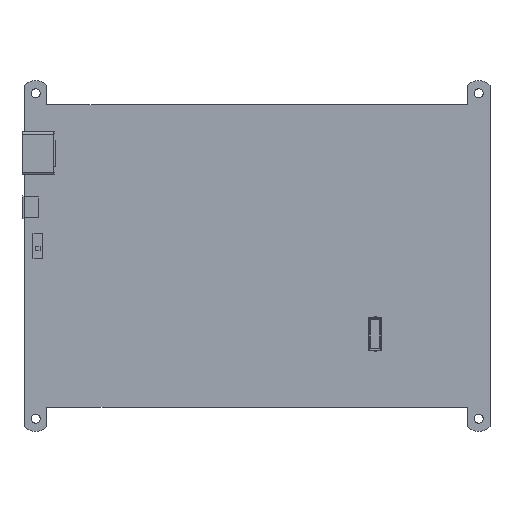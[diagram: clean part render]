
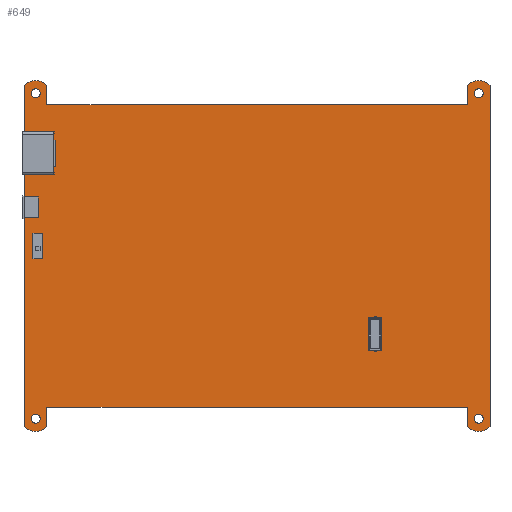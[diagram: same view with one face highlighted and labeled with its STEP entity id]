
A CAD part, top view. The second image highlights one B-rep face of the part: STEP entity #649.
In plain terms, the highlighted planar face has unit normal (0, 0, 1).
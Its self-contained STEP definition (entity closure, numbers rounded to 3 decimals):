
#70=DIRECTION('',(0.,1.,0.));
#71=VECTOR('',#70,120.957);
#72=CARTESIAN_POINT('',(1364.564,934.523,0.));
#73=LINE('',#72,#71);
#77=CARTESIAN_POINT('',(1360.564,938.523,0.));
#78=DIRECTION('',(0.,0.,1.));
#79=DIRECTION('',(-0.707,-0.707,0.));
#80=AXIS2_PLACEMENT_3D('',#77,#78,#79);
#85=DIRECTION('',(0.001,-1.,0.));
#86=VECTOR('',#85,6.954);
#87=CARTESIAN_POINT('',(1356.56,941.476,0.));
#88=LINE('',#87,#86);
#92=DIRECTION('',(1.,0.,0.));
#93=VECTOR('',#92,148.896);
#94=CARTESIAN_POINT('',(1207.664,941.472,0.));
#95=LINE('',#94,#93);
#99=DIRECTION('',(0.,1.,0.));
#100=VECTOR('',#99,6.949);
#101=CARTESIAN_POINT('',(1207.664,934.523,0.));
#102=LINE('',#101,#100);
#106=CARTESIAN_POINT('',(1203.664,938.523,0.));
#107=DIRECTION('',(0.,0.,1.));
#108=DIRECTION('',(-0.707,-0.707,0.));
#109=AXIS2_PLACEMENT_3D('',#106,#107,#108);
#114=DIRECTION('',(0.,-1.,0.));
#115=VECTOR('',#114,120.957);
#116=CARTESIAN_POINT('',(1199.664,1055.48,0.));
#117=LINE('',#116,#115);
#121=CARTESIAN_POINT('',(1203.664,1051.48,0.));
#122=DIRECTION('',(0.,0.,1.));
#123=DIRECTION('',(0.707,0.707,0.));
#124=AXIS2_PLACEMENT_3D('',#121,#122,#123);
#129=DIRECTION('',(-0.001,1.,0.));
#130=VECTOR('',#129,6.985);
#131=CARTESIAN_POINT('',(1207.668,1048.495,0.));
#132=LINE('',#131,#130);
#136=DIRECTION('',(-1.,0.,0.));
#137=VECTOR('',#136,148.896);
#138=CARTESIAN_POINT('',(1356.564,1048.495,0.));
#139=LINE('',#138,#137);
#143=DIRECTION('',(0.,-1.,0.));
#144=VECTOR('',#143,6.985);
#145=CARTESIAN_POINT('',(1356.564,1055.48,0.));
#146=LINE('',#145,#144);
#150=CARTESIAN_POINT('',(1360.564,1051.48,0.));
#151=DIRECTION('',(0.,0.,1.));
#152=DIRECTION('',(0.707,0.707,0.));
#153=AXIS2_PLACEMENT_3D('',#150,#151,#152);
#158=CARTESIAN_POINT('',(1360.564,937.401,0.));
#159=DIRECTION('',(0.,0.,1.));
#160=DIRECTION('',(1.,0.,0.));
#161=AXIS2_PLACEMENT_3D('',#158,#159,#160);
#166=CARTESIAN_POINT('',(1360.564,937.401,0.));
#167=DIRECTION('',(0.,0.,1.));
#168=DIRECTION('',(-1.,0.,0.));
#169=AXIS2_PLACEMENT_3D('',#166,#167,#168);
#174=CARTESIAN_POINT('',(1360.564,1052.601,0.));
#175=DIRECTION('',(0.,0.,1.));
#176=DIRECTION('',(1.,0.,0.));
#177=AXIS2_PLACEMENT_3D('',#174,#175,#176);
#182=CARTESIAN_POINT('',(1360.564,1052.601,0.));
#183=DIRECTION('',(0.,0.,1.));
#184=DIRECTION('',(-1.,0.,0.));
#185=AXIS2_PLACEMENT_3D('',#182,#183,#184);
#190=CARTESIAN_POINT('',(1203.664,937.401,0.));
#191=DIRECTION('',(0.,0.,1.));
#192=DIRECTION('',(1.,0.,0.));
#193=AXIS2_PLACEMENT_3D('',#190,#191,#192);
#198=CARTESIAN_POINT('',(1203.664,937.401,0.));
#199=DIRECTION('',(0.,0.,1.));
#200=DIRECTION('',(-1.,0.,0.));
#201=AXIS2_PLACEMENT_3D('',#198,#199,#200);
#206=CARTESIAN_POINT('',(1203.664,1052.601,0.));
#207=DIRECTION('',(0.,0.,1.));
#208=DIRECTION('',(1.,0.,0.));
#209=AXIS2_PLACEMENT_3D('',#206,#207,#208);
#214=CARTESIAN_POINT('',(1203.664,1052.601,0.));
#215=DIRECTION('',(0.,0.,1.));
#216=DIRECTION('',(-1.,0.,0.));
#217=AXIS2_PLACEMENT_3D('',#214,#215,#216);
#514=CARTESIAN_POINT('',(1364.564,934.523,0.));
#515=CARTESIAN_POINT('',(1364.564,1055.48,0.));
#516=VERTEX_POINT('',#514);
#517=VERTEX_POINT('',#515);
#518=CARTESIAN_POINT('',(1356.564,1055.48,0.));
#519=VERTEX_POINT('',#518);
#520=CARTESIAN_POINT('',(1356.564,1048.495,0.));
#521=VERTEX_POINT('',#520);
#522=CARTESIAN_POINT('',(1207.668,1048.495,0.));
#523=VERTEX_POINT('',#522);
#524=CARTESIAN_POINT('',(1207.664,1055.48,0.));
#525=VERTEX_POINT('',#524);
#526=CARTESIAN_POINT('',(1199.664,1055.48,0.));
#527=VERTEX_POINT('',#526);
#528=CARTESIAN_POINT('',(1199.664,934.523,0.));
#529=VERTEX_POINT('',#528);
#530=CARTESIAN_POINT('',(1207.664,934.523,0.));
#531=VERTEX_POINT('',#530);
#532=CARTESIAN_POINT('',(1207.664,941.472,0.));
#533=VERTEX_POINT('',#532);
#534=CARTESIAN_POINT('',(1356.56,941.476,0.));
#535=VERTEX_POINT('',#534);
#536=CARTESIAN_POINT('',(1356.564,934.523,0.));
#537=VERTEX_POINT('',#536);
#562=CARTESIAN_POINT('',(1362.164,937.401,0.));
#563=CARTESIAN_POINT('',(1358.964,937.401,0.));
#564=VERTEX_POINT('',#562);
#565=VERTEX_POINT('',#563);
#566=CARTESIAN_POINT('',(1362.164,1052.601,0.));
#567=CARTESIAN_POINT('',(1358.964,1052.601,0.));
#568=VERTEX_POINT('',#566);
#569=VERTEX_POINT('',#567);
#570=CARTESIAN_POINT('',(1205.264,937.401,0.));
#571=CARTESIAN_POINT('',(1202.064,937.401,0.));
#572=VERTEX_POINT('',#570);
#573=VERTEX_POINT('',#571);
#574=CARTESIAN_POINT('',(1205.264,1052.601,0.));
#575=CARTESIAN_POINT('',(1202.064,1052.601,0.));
#576=VERTEX_POINT('',#574);
#577=VERTEX_POINT('',#575);
#594=CARTESIAN_POINT('',(0.,0.,0.));
#595=DIRECTION('',(0.,0.,1.));
#596=DIRECTION('',(1.,0.,0.));
#597=AXIS2_PLACEMENT_3D('',#594,#595,#596);
#598=PLANE('',#597);
#600=ORIENTED_EDGE('',*,*,#599,.F.);
#602=ORIENTED_EDGE('',*,*,#601,.F.);
#604=ORIENTED_EDGE('',*,*,#603,.F.);
#606=ORIENTED_EDGE('',*,*,#605,.F.);
#608=ORIENTED_EDGE('',*,*,#607,.F.);
#610=ORIENTED_EDGE('',*,*,#609,.F.);
#612=ORIENTED_EDGE('',*,*,#611,.F.);
#614=ORIENTED_EDGE('',*,*,#613,.F.);
#616=ORIENTED_EDGE('',*,*,#615,.F.);
#618=ORIENTED_EDGE('',*,*,#617,.F.);
#620=ORIENTED_EDGE('',*,*,#619,.F.);
#622=ORIENTED_EDGE('',*,*,#621,.F.);
#623=EDGE_LOOP('',(#600,#602,#604,#606,#608,#610,#612,#614,#616,#618,#620,
#622));
#624=FACE_OUTER_BOUND('',#623,.F.);
#626=ORIENTED_EDGE('',*,*,#625,.T.);
#628=ORIENTED_EDGE('',*,*,#627,.T.);
#629=EDGE_LOOP('',(#626,#628));
#630=FACE_BOUND('',#629,.F.);
#632=ORIENTED_EDGE('',*,*,#631,.T.);
#634=ORIENTED_EDGE('',*,*,#633,.T.);
#635=EDGE_LOOP('',(#632,#634));
#636=FACE_BOUND('',#635,.F.);
#638=ORIENTED_EDGE('',*,*,#637,.T.);
#640=ORIENTED_EDGE('',*,*,#639,.T.);
#641=EDGE_LOOP('',(#638,#640));
#642=FACE_BOUND('',#641,.F.);
#644=ORIENTED_EDGE('',*,*,#643,.T.);
#646=ORIENTED_EDGE('',*,*,#645,.T.);
#647=EDGE_LOOP('',(#644,#646));
#648=FACE_BOUND('',#647,.F.);
#81=CIRCLE('',#80,5.657);
#110=CIRCLE('',#109,5.657);
#125=CIRCLE('',#124,5.657);
#154=CIRCLE('',#153,5.657);
#162=CIRCLE('',#161,1.6);
#170=CIRCLE('',#169,1.6);
#178=CIRCLE('',#177,1.6);
#186=CIRCLE('',#185,1.6);
#194=CIRCLE('',#193,1.6);
#202=CIRCLE('',#201,1.6);
#210=CIRCLE('',#209,1.6);
#218=CIRCLE('',#217,1.6);
#599=EDGE_CURVE('',#516,#517,#73,.T.);
#601=EDGE_CURVE('',#537,#516,#81,.T.);
#603=EDGE_CURVE('',#535,#537,#88,.T.);
#605=EDGE_CURVE('',#533,#535,#95,.T.);
#607=EDGE_CURVE('',#531,#533,#102,.T.);
#609=EDGE_CURVE('',#529,#531,#110,.T.);
#611=EDGE_CURVE('',#527,#529,#117,.T.);
#613=EDGE_CURVE('',#525,#527,#125,.T.);
#615=EDGE_CURVE('',#523,#525,#132,.T.);
#617=EDGE_CURVE('',#521,#523,#139,.T.);
#619=EDGE_CURVE('',#519,#521,#146,.T.);
#621=EDGE_CURVE('',#517,#519,#154,.T.);
#625=EDGE_CURVE('',#564,#565,#162,.T.);
#627=EDGE_CURVE('',#565,#564,#170,.T.);
#631=EDGE_CURVE('',#568,#569,#178,.T.);
#633=EDGE_CURVE('',#569,#568,#186,.T.);
#637=EDGE_CURVE('',#572,#573,#194,.T.);
#639=EDGE_CURVE('',#573,#572,#202,.T.);
#643=EDGE_CURVE('',#576,#577,#210,.T.);
#645=EDGE_CURVE('',#577,#576,#218,.T.);
#649=ADVANCED_FACE('',(#624,#630,#636,#642,#648),#598,.T.);
